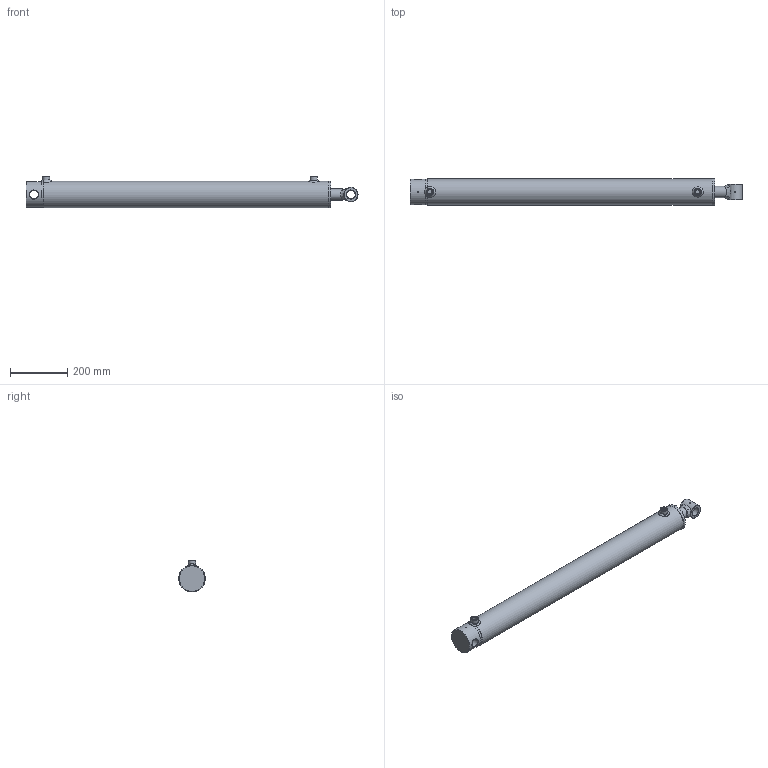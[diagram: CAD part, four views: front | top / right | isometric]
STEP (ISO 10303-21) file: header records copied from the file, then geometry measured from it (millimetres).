
FILE_DESCRIPTION( ( 'Unknown' ), '1' );
FILE_NAME( 'E:/LIBRERIA_3d/CILINDRI/HFR2S/HFR2S0800400900.stp', 'Unknown', ( 'Unknown' ), ( 'Unknown' ), 'PSStep 17.0.49', 'Unknown', ' ' );
FILE_SCHEMA( ( 'AUTOMOTIVE_DESIGN { 1 0 10303 214 1 1 1 1 }' ) );
Length unit declared in the file: millimetre
Products named in the file (23): CTBF080M27; CG09508040; STF2R0800600900-oa5; Saldatura d'angolo 1-oa3; MAT_PRIMA_TUBO_FT09208000-oa4; CBS0600000; Assem1; CFHR080030060; CBF1030050055; APG0600000; Saldatura d'angolo 1-oa0; Saldatura con preparazione 1-oa1; Saldatura d'angolo 2-oa2; SBF2R400800900; AVG3006080
Assembly tree (16 placements, depth 3):
  Saldatura d'angolo 1-oa3
  Saldatura d'angolo 1-oa3
  Assem1
    CFHR080030060
    CBS0600000
    CBF1030050055
    APG0600000  x2
    Saldatura con preparazione 1-oa1
    Saldatura con preparazione 1-oa1
    SBF2R400800900
    AVG3006080
    CG09508040
      CG09508040
    CTBF080M27
      CTBF080M27
    STF2R0800600900-oa5
      MAT_PRIMA_TUBO_FT09208000-oa4
      CBS0600000
  Saldatura d'angolo 1-oa0
  Saldatura d'angolo 1-oa0
Bounding box: 1163 x 94 x 112 mm (x, y, z)
Volume: 3685844.5 mm3; surface area: 826539 mm2
Topology: 21 solids, 21 shells, 267 faces, 547 edges, 334 vertices
Faces by surface type: plane 68, cylinder 61, bspline 56, torus 42, cone 40
Full cylindrical faces by diameter (mm): 5.5 x2, 6 x3, 7 x2, 8 x2, 14.95 x2, 16 x3, 16.6 x2, 22 x2, 25 x1, 26 x2, 27 x1, 28 x3, 30.25 x2, 34.2 x1, 40 x5, 43 x3, 48.6 x1, 50 x2, 65 x1, 75 x1, 76 x2, 78.5 x2, 79.9 x1, 80 x1, 80.3 x1, 80.5 x1, 80.6 x1, 81 x1, 82 x3, 82.835 x1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
Entity records: 14471 total; most frequent: CARTESIAN_POINT 8091, DIRECTION 794, ORIENTED_EDGE 656, EDGE_LOOP 436, AXIS2_PLACEMENT_3D 388, FACE_OUTER_BOUND 354, EDGE_CURVE 328, VERTEX_POINT 272
